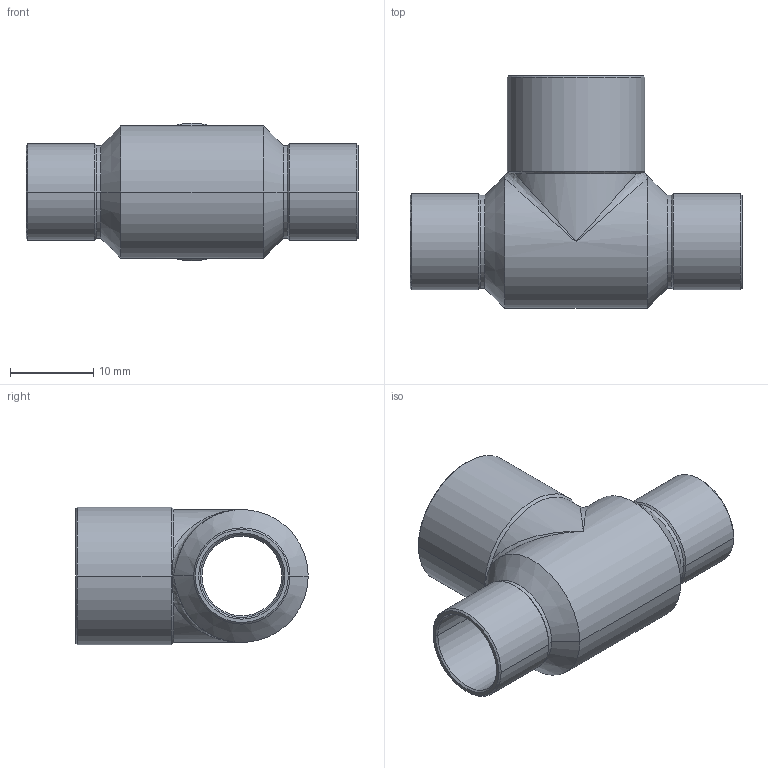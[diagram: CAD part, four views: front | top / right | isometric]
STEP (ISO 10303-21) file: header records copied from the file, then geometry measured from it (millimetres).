
FILE_DESCRIPTION((''),'2;1');
FILE_NAME('P:\Bouwmaten\z-maattekeningen 3D\5000\5130\5130101510.stp','2005-10-26T11:52:18',('Kris'),(''),'Autodesk Inventor 8','Autodesk Inventor 8','');
FILE_SCHEMA(('AUTOMOTIVE_DESIGN { 1 0 10303 214 1 1 1 1 }'));
Length unit declared in the file: millimetre
Products named in the file (1): 5130101510
Bounding box: 40 x 28 x 16.6 mm (x, y, z)
Volume: 1745.7 mm3; surface area: 4494.1 mm2
Topology: 1 solids, 1 shells, 67 faces, 158 edges, 84 vertices
Faces by surface type: cone 28, cylinder 20, bspline 16, plane 3
Entity records: 2527 total; most frequent: CARTESIAN_POINT 1050, DIRECTION 318, ORIENTED_EDGE 300, EDGE_CURVE 150, AXIS2_PLACEMENT_3D 132, VERTEX_POINT 84, EDGE_LOOP 70, FACE_OUTER_BOUND 67
